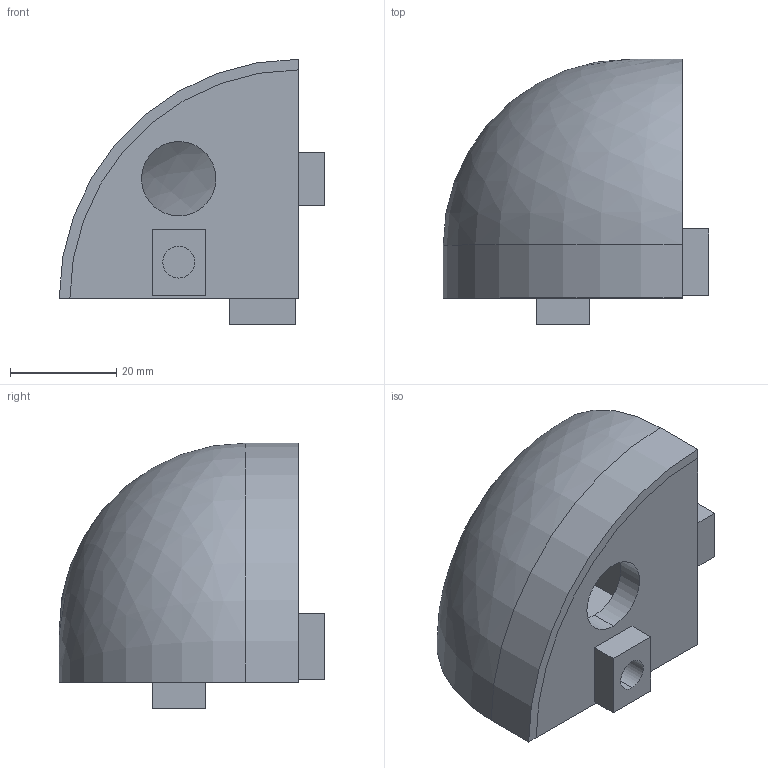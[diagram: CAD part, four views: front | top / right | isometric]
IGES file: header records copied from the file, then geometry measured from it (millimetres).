
Start section: SolidWorks IGES file using analytic representation for surfaces
Global section: file name: C:\Documents and Settings\Administrator\デスクトップ\6回目指定保存後\SolidWorks\SF\SF40・45\Bracket\SFK-R04.IGS; native system: SolidWorks 2006 by SolidWorks Corporation; preprocessor: SolidWorks 2006 by SolidWorks Corporation; author: Administrator; date: 061219.112503; units: millimetre
Bounding box: 50 x 50 x 50 mm (x, y, z)
Volume: 26019.5 mm3; surface area: 17216.5 mm2
Topology: 2 solids, 2 shells, 54 faces, 135 edges, 90 vertices
Faces by surface type: plane 35, revolution 19
